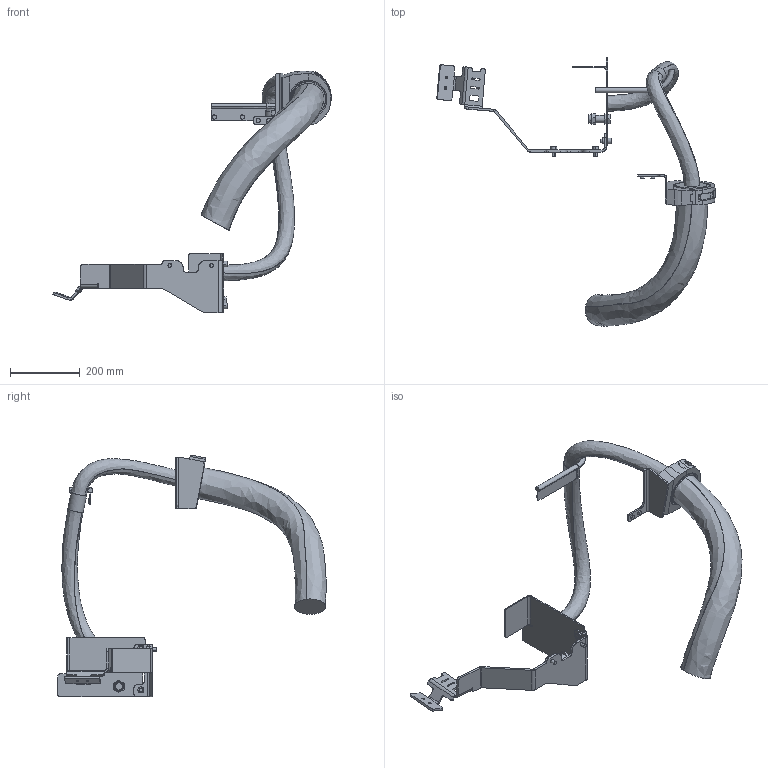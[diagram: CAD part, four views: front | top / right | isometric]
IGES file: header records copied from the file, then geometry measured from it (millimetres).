
Start section: SolidWorks IGES file using analytic representation for surfaces
Global section: file name: C:\Data\SAP_DOC\IRB6740_lightweight\6750S\IRB 6750S ASM\IRB6750S-MH3_350kg-320_OC_02_SW_J\IRB6750S-MH3_350kg-320_OC_02_IGES_J\IRB6750S-MH_ALL-OC_00_LINK03a_CABLE.igs; native system: SolidWorks 2024; preprocessor: SolidWorks 2024; author: SEJAOLS6; date: 260507.085326; units: millimetre
Bounding box: 797.03 x 768.85 x 692.56 mm (x, y, z)
Surface area: 652800.3 mm2 (no closed solid volume)
Topology: 0 solids, 0 shells, 433 faces, 6502 edges, 6502 vertices
Faces by surface type: bspline 253, revolution 180
